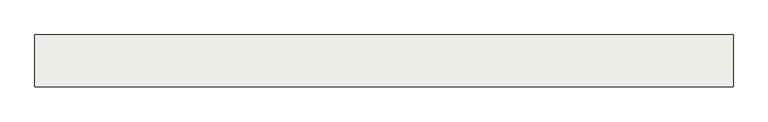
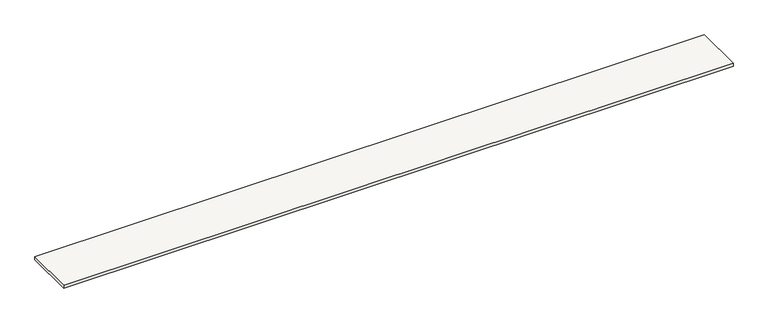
"""IFC4 building model written with IfcOpenShell, lengths in millimetres: slab geometry, Sol-12 - zone plantée."""

from ifc_helpers import new_model, si_unit, frame, origin, place, context, project, spatial, polyline, outline, extrude, source, transform, mapped, element, save


def slab_c68cc5cf(model_context):
    return source(origin(), model_context, "Body", "SweptSolid", [
        extrude(outline(polyline([(-3899.9988284, -8300.4850099), (-3899.9988284, -10719.999999), (-36479.9987968, -10719.999999), (-36479.9987968, -8300.4850099), (-3899.9988284, -8300.4850099)])), frame((0.0, 0.0, -150.0), z_axis=(0.0, 0.0, 1.0), x_axis=(1.0, 0.0, 0.0)), (0.0, 0.0, 1.0), 150.0),
    ])


if __name__ == "__main__":
    model = new_model("IFC4")
    model_context = context("Model", 3, world=origin())
    ifc_project = project(units=[si_unit("LENGTHUNIT", "METRE", prefix="MILLI")], contexts=[model_context])
    site = spatial("IfcSite", under=ifc_project)
    building = spatial("IfcBuilding", under=site)
    placement = place(None, origin())
    slab_shape = slab_c68cc5cf(model_context)
    element("IfcSlab", 1, ObjectType="Sol-12 - zone plantée", at=placement, inside=building, context=model_context, shape_type="MappedRepresentation", body=[
        mapped(slab_shape, transform((0.0, 0.0, 0.0), x_axis=(1.0, 0.0, 0.0), y_axis=(0.0, 1.0, 0.0), z_axis=(0.0, 0.0, 1.0))),
    ])
    save(model, "model.ifc")
